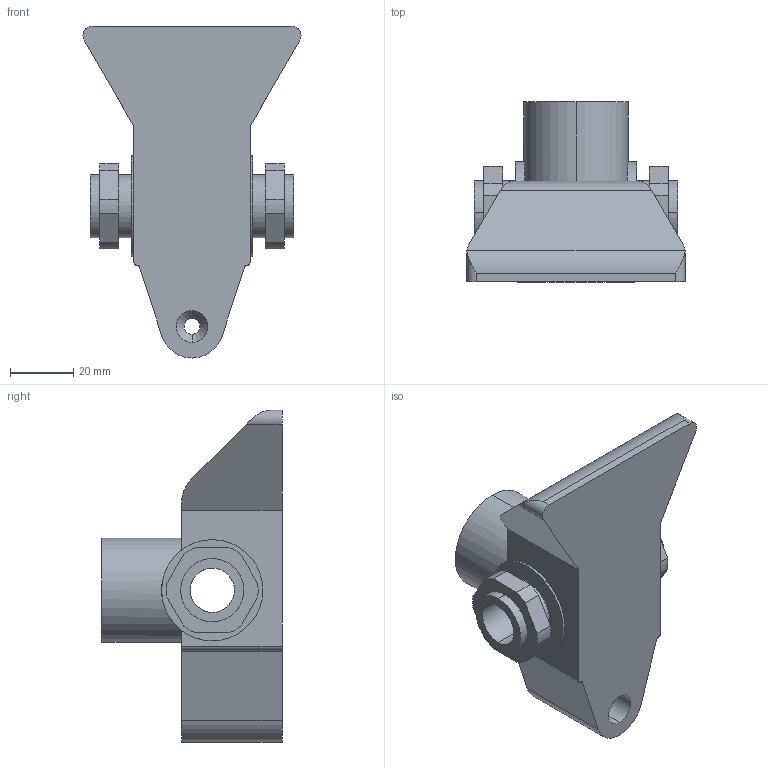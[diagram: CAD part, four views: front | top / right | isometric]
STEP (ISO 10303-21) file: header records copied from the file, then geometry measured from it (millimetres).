
FILE_DESCRIPTION (( 'STEP AP203' ), '1' );
FILE_NAME ('ZF_STEP_VF_KIT30_A09.STEP', '2009-06-24T14:38:41', ( 'mario' ), ( '' ), 'SwSTEP 2.0', 'SolidWorks 2009', '' );
FILE_SCHEMA (( 'CONFIG_CONTROL_DESIGN' ));
Length unit declared in the file: millimetre
Products named in the file (3): Pizzato_Dado_1215_1215; ZF_STEP_VF_KIT30_A09; Pizzato_VF_KIT30_senza_dadi
Assembly tree (3 placements, depth 2):
  ZF_STEP_VF_KIT30_A09
    Pizzato_Dado_1215_1215  x2
    Pizzato_VF_KIT30_senza_dadi
Bounding box: 69 x 57 x 105 mm (x, y, z)
Volume: 117534.3 mm3; surface area: 28819.3 mm2
Topology: 3 solids, 3 shells, 99 faces, 262 edges, 172 vertices
Faces by surface type: cylinder 51, plane 42, cone 6
Entity records: 3054 total; most frequent: CARTESIAN_POINT 613, DIRECTION 469, ORIENTED_EDGE 434, EDGE_CURVE 217, AXIS2_PLACEMENT_3D 178, VERTEX_POINT 142, VECTOR 113, LINE 113
